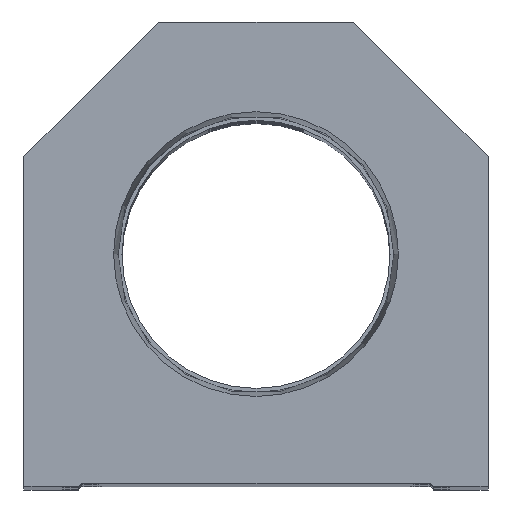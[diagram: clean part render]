
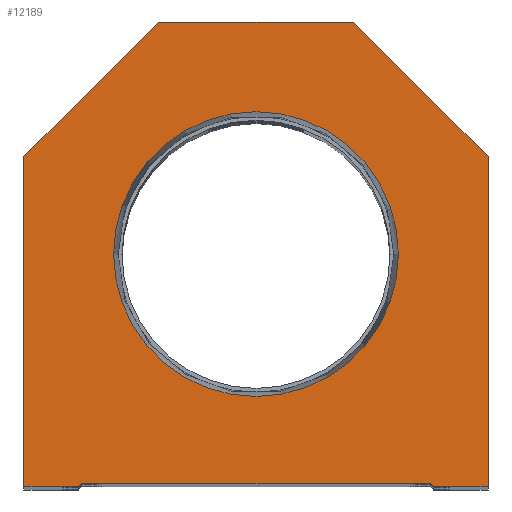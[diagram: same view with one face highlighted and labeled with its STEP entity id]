
A CAD part, top view. The second image highlights one B-rep face of the part: STEP entity #12189.
In plain terms, the highlighted planar face has unit normal (0, 0, 1).
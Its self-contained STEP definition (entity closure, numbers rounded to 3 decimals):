
#201 = VERTEX_POINT ( 'NONE', #4926 ) ;
#480 = DIRECTION ( 'NONE',  ( 0., 0., 1. ) ) ;
#507 = EDGE_CURVE ( 'NONE', #17661, #17743, #10700, .T. ) ;
#597 = DIRECTION ( 'NONE',  ( 0.707, -0.707, 0. ) ) ;
#782 = CARTESIAN_POINT ( 'NONE',  ( -28.6, 0., 0. ) ) ;
#984 = CARTESIAN_POINT ( 'NONE',  ( 38.1, 54.1, 0. ) ) ;
#1064 = VECTOR ( 'NONE', #12060, 1000. ) ;
#1225 = VECTOR ( 'NONE', #10914, 1000. ) ;
#1248 = DIRECTION ( 'NONE',  ( 0., 0., 1. ) ) ;
#1249 = CARTESIAN_POINT ( 'NONE',  ( -28.6, 0.5, 0. ) ) ;
#1566 = ORIENTED_EDGE ( 'NONE', *, *, #14684, .T. ) ;
#1804 = EDGE_CURVE ( 'NONE', #12254, #3883, #15300, .T. ) ;
#1856 = ORIENTED_EDGE ( 'NONE', *, *, #21143, .T. ) ;
#1979 = DIRECTION ( 'NONE',  ( 0.707, 0.707, 0. ) ) ;
#2042 = CARTESIAN_POINT ( 'NONE',  ( -16., 76.2, 0. ) ) ;
#2876 = ORIENTED_EDGE ( 'NONE', *, *, #10436, .F. ) ;
#3113 = VERTEX_POINT ( 'NONE', #20936 ) ;
#3480 = EDGE_CURVE ( 'NONE', #3113, #12254, #11017, .T. ) ;
#3825 = CARTESIAN_POINT ( 'NONE',  ( 38.1, 54.1, 0. ) ) ;
#3883 = VERTEX_POINT ( 'NONE', #14720 ) ;
#4052 = VECTOR ( 'NONE', #13703, 1000. ) ;
#4118 = VECTOR ( 'NONE', #10375, 1000. ) ;
#4328 = VECTOR ( 'NONE', #1979, 1000. ) ;
#4926 = CARTESIAN_POINT ( 'NONE',  ( -29.1, 0., 0. ) ) ;
#4928 = LINE ( 'NONE', #6432, #7709 ) ;
#5396 = ORIENTED_EDGE ( 'NONE', *, *, #17712, .T. ) ;
#5521 = CARTESIAN_POINT ( 'NONE',  ( 28.6, 0., 0. ) ) ;
#5756 = CIRCLE ( 'NONE', #16078, 23.374 ) ;
#5790 = VERTEX_POINT ( 'NONE', #20798 ) ;
#6017 = CARTESIAN_POINT ( 'NONE',  ( 23.374, 38.1, 0. ) ) ;
#6241 = CARTESIAN_POINT ( 'NONE',  ( 16., 76.2, 0. ) ) ;
#6432 = CARTESIAN_POINT ( 'NONE',  ( -38.1, 54.1, 0. ) ) ;
#6735 = FACE_OUTER_BOUND ( 'NONE', #9349, .T. ) ;
#6992 = EDGE_CURVE ( 'NONE', #3883, #5790, #12165, .T. ) ;
#7015 = EDGE_CURVE ( 'NONE', #7779, #201, #14016, .T. ) ;
#7066 = VERTEX_POINT ( 'NONE', #18913 ) ;
#7148 = CARTESIAN_POINT ( 'NONE',  ( 38.1, 0., 0. ) ) ;
#7299 = ORIENTED_EDGE ( 'NONE', *, *, #12930, .T. ) ;
#7709 = VECTOR ( 'NONE', #11361, 1000. ) ;
#7779 = VERTEX_POINT ( 'NONE', #16818 ) ;
#7806 = DIRECTION ( 'NONE',  ( 1., 0., 0. ) ) ;
#8053 = DIRECTION ( 'NONE',  ( 1., 0., 0. ) ) ;
#8431 = ORIENTED_EDGE ( 'NONE', *, *, #18475, .F. ) ;
#8520 = CARTESIAN_POINT ( 'NONE',  ( -14.55, 14.55, 0. ) ) ;
#8842 = VECTOR ( 'NONE', #597, 1000. ) ;
#9349 = EDGE_LOOP ( 'NONE', ( #14222, #7299, #19870, #19649, #14891, #18873, #1566, #11594, #1856, #5396 ) ) ;
#9616 = VERTEX_POINT ( 'NONE', #6017 ) ;
#10348 = VECTOR ( 'NONE', #16999, 1000. ) ;
#10375 = DIRECTION ( 'NONE',  ( -0.707, 0.707, 0. ) ) ;
#10436 = EDGE_CURVE ( 'NONE', #9616, #11496, #16598, .T. ) ;
#10482 = CARTESIAN_POINT ( 'NONE',  ( 14.55, 14.55, 0. ) ) ;
#10700 = LINE ( 'NONE', #20554, #1225 ) ;
#10914 = DIRECTION ( 'NONE',  ( -1., 0., 0. ) ) ;
#11017 = LINE ( 'NONE', #1249, #17837 ) ;
#11361 = DIRECTION ( 'NONE',  ( -0.707, -0.707, 0. ) ) ;
#11449 = AXIS2_PLACEMENT_3D ( 'NONE', #14040, #1248, #7806 ) ;
#11496 = VERTEX_POINT ( 'NONE', #17586 ) ;
#11594 = ORIENTED_EDGE ( 'NONE', *, *, #507, .T. ) ;
#11957 = LINE ( 'NONE', #7148, #4052 ) ;
#12060 = DIRECTION ( 'NONE',  ( 1., 0., 0. ) ) ;
#12165 = LINE ( 'NONE', #5521, #10348 ) ;
#12189 = ADVANCED_FACE ( 'NONE', ( #14971, #6735 ), #13289, .T. ) ;
#12254 = VERTEX_POINT ( 'NONE', #20123 ) ;
#12277 = EDGE_LOOP ( 'NONE', ( #2876, #8431 ) ) ;
#12930 = EDGE_CURVE ( 'NONE', #201, #3113, #16685, .T. ) ;
#13289 = PLANE ( 'NONE',  #18352 ) ;
#13609 = DIRECTION ( 'NONE',  ( 1., 0., 0. ) ) ;
#13703 = DIRECTION ( 'NONE',  ( 0., 1., 0. ) ) ;
#14016 = LINE ( 'NONE', #782, #1064 ) ;
#14040 = CARTESIAN_POINT ( 'NONE',  ( 0., 38.1, 0. ) ) ;
#14222 = ORIENTED_EDGE ( 'NONE', *, *, #7015, .T. ) ;
#14338 = VECTOR ( 'NONE', #15786, 1000. ) ;
#14395 = DIRECTION ( 'NONE',  ( 0., 0., 1. ) ) ;
#14684 = EDGE_CURVE ( 'NONE', #20605, #17661, #18500, .T. ) ;
#14720 = CARTESIAN_POINT ( 'NONE',  ( 29.1, 0., 0. ) ) ;
#14891 = ORIENTED_EDGE ( 'NONE', *, *, #6992, .T. ) ;
#14971 = FACE_BOUND ( 'NONE', #12277, .T. ) ;
#15300 = LINE ( 'NONE', #10482, #8842 ) ;
#15786 = DIRECTION ( 'NONE',  ( 0., -1., 0. ) ) ;
#16078 = AXIS2_PLACEMENT_3D ( 'NONE', #17897, #14395, #8053 ) ;
#16598 = CIRCLE ( 'NONE', #11449, 23.374 ) ;
#16685 = LINE ( 'NONE', #8520, #4328 ) ;
#16818 = CARTESIAN_POINT ( 'NONE',  ( -38.1, 0., 0. ) ) ;
#16999 = DIRECTION ( 'NONE',  ( 1., 0., 0. ) ) ;
#17374 = CARTESIAN_POINT ( 'NONE',  ( -38.1, 0., 0. ) ) ;
#17529 = DIRECTION ( 'NONE',  ( 1., 0., 0. ) ) ;
#17586 = CARTESIAN_POINT ( 'NONE',  ( -23.374, 38.1, 0. ) ) ;
#17661 = VERTEX_POINT ( 'NONE', #6241 ) ;
#17712 = EDGE_CURVE ( 'NONE', #7066, #7779, #21133, .T. ) ;
#17743 = VERTEX_POINT ( 'NONE', #2042 ) ;
#17837 = VECTOR ( 'NONE', #17529, 1000. ) ;
#17897 = CARTESIAN_POINT ( 'NONE',  ( 0., 38.1, 0. ) ) ;
#18352 = AXIS2_PLACEMENT_3D ( 'NONE', #19803, #480, #13609 ) ;
#18475 = EDGE_CURVE ( 'NONE', #11496, #9616, #5756, .T. ) ;
#18500 = LINE ( 'NONE', #3825, #4118 ) ;
#18873 = ORIENTED_EDGE ( 'NONE', *, *, #19191, .T. ) ;
#18913 = CARTESIAN_POINT ( 'NONE',  ( -38.1, 54.1, 0. ) ) ;
#19191 = EDGE_CURVE ( 'NONE', #5790, #20605, #11957, .T. ) ;
#19649 = ORIENTED_EDGE ( 'NONE', *, *, #1804, .T. ) ;
#19803 = CARTESIAN_POINT ( 'NONE',  ( 0., 0., 0. ) ) ;
#19870 = ORIENTED_EDGE ( 'NONE', *, *, #3480, .T. ) ;
#20123 = CARTESIAN_POINT ( 'NONE',  ( 28.6, 0.5, 0. ) ) ;
#20554 = CARTESIAN_POINT ( 'NONE',  ( 16., 76.2, 0. ) ) ;
#20605 = VERTEX_POINT ( 'NONE', #984 ) ;
#20798 = CARTESIAN_POINT ( 'NONE',  ( 38.1, 0., 0. ) ) ;
#20936 = CARTESIAN_POINT ( 'NONE',  ( -28.6, 0.5, 0. ) ) ;
#21133 = LINE ( 'NONE', #17374, #14338 ) ;
#21143 = EDGE_CURVE ( 'NONE', #17743, #7066, #4928, .T. ) ;
